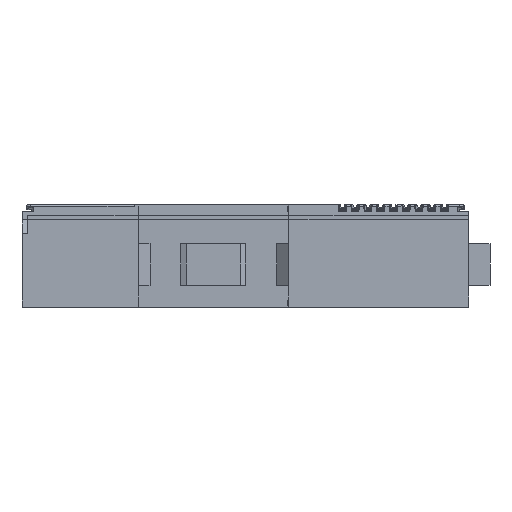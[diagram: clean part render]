
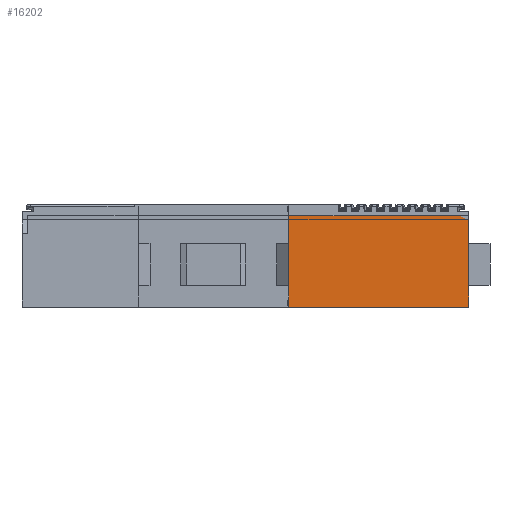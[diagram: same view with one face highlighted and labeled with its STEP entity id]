
A CAD part, front view. The second image highlights one B-rep face of the part: STEP entity #16202.
In plain terms, the highlighted planar face has unit normal (0, -1, 0).
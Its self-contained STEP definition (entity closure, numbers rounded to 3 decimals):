
#331=DIRECTION('',(-1.,0.,0.));
#332=VECTOR('',#331,42.3);
#333=CARTESIAN_POINT('',(105.,0.,21.5));
#334=LINE('',#333,#332);
#421=DIRECTION('',(0.,0.,1.));
#422=VECTOR('',#421,21.5);
#423=CARTESIAN_POINT('',(105.,0.,0.));
#424=LINE('',#423,#422);
#425=DIRECTION('',(1.,0.,0.));
#426=VECTOR('',#425,42.3);
#427=CARTESIAN_POINT('',(62.7,0.,0.));
#428=LINE('',#427,#426);
#714=DIRECTION('',(0.,0.,1.));
#715=VECTOR('',#714,21.5);
#716=CARTESIAN_POINT('',(62.7,0.,0.));
#717=LINE('',#716,#715);
#12680=CARTESIAN_POINT('',(105.,0.,0.));
#12681=VERTEX_POINT('',#12680);
#12682=CARTESIAN_POINT('',(62.7,0.,0.));
#12683=VERTEX_POINT('',#12682);
#12718=CARTESIAN_POINT('',(105.,0.,21.5));
#12719=VERTEX_POINT('',#12718);
#12758=CARTESIAN_POINT('',(62.7,0.,21.5));
#12759=VERTEX_POINT('',#12758);
#16189=CARTESIAN_POINT('',(83.85,0.,10.75));
#16190=DIRECTION('',(0.,1.,0.));
#16191=DIRECTION('',(1.,0.,0.));
#16192=AXIS2_PLACEMENT_3D('',#16189,#16190,#16191);
#16193=PLANE('',#16192);
#16194=ORIENTED_EDGE('',*,*,#15329,.F.);
#16196=ORIENTED_EDGE('',*,*,#16195,.F.);
#16198=ORIENTED_EDGE('',*,*,#16197,.T.);
#16199=ORIENTED_EDGE('',*,*,#15447,.F.);
#16200=EDGE_LOOP('',(#16194,#16196,#16198,#16199));
#16201=FACE_OUTER_BOUND('',#16200,.F.);
#16202=ADVANCED_FACE('',(#16201),#16193,.F.);
#15329=EDGE_CURVE('',#12681,#12719,#424,.T.);
#15447=EDGE_CURVE('',#12719,#12759,#334,.T.);
#16195=EDGE_CURVE('',#12683,#12681,#428,.T.);
#16197=EDGE_CURVE('',#12683,#12759,#717,.T.);
